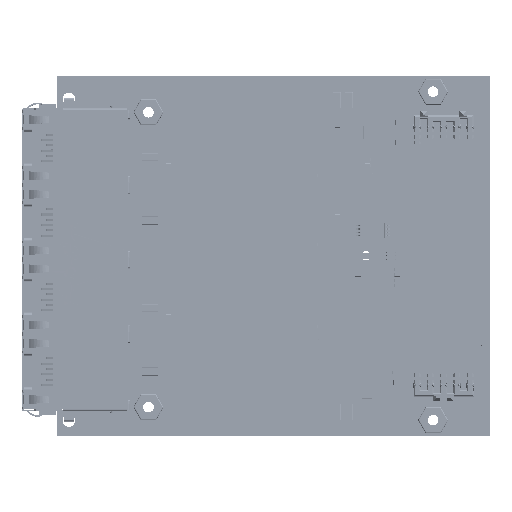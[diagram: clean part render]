
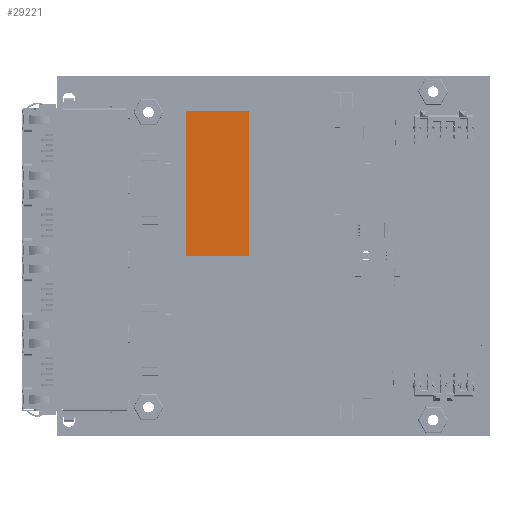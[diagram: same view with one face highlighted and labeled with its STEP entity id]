
A CAD part, top view. The second image highlights one B-rep face of the part: STEP entity #29221.
In plain terms, the highlighted planar face has unit normal (0, 0, 1).
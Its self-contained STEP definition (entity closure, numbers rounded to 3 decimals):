
#29092 = VERTEX_POINT('',#29093);
#29093 = CARTESIAN_POINT('',(6.1,-13.9,7.113));
#29099 = EDGE_CURVE('',#29092,#29100,#29102,.T.);
#29100 = VERTEX_POINT('',#29101);
#29101 = CARTESIAN_POINT('',(6.1,13.9,7.113));
#29102 = LINE('',#29103,#29104);
#29103 = CARTESIAN_POINT('',(6.1,-13.9,7.113));
#29104 = VECTOR('',#29105,1.);
#29105 = DIRECTION('',(0.,1.,0.));
#29130 = EDGE_CURVE('',#29100,#29131,#29133,.T.);
#29131 = VERTEX_POINT('',#29132);
#29132 = CARTESIAN_POINT('',(-6.1,13.9,7.113));
#29133 = LINE('',#29134,#29135);
#29134 = CARTESIAN_POINT('',(6.1,13.9,7.113));
#29135 = VECTOR('',#29136,1.);
#29136 = DIRECTION('',(-1.,0.,0.));
#29161 = EDGE_CURVE('',#29131,#29162,#29164,.T.);
#29162 = VERTEX_POINT('',#29163);
#29163 = CARTESIAN_POINT('',(-6.1,-13.9,7.113));
#29164 = LINE('',#29165,#29166);
#29165 = CARTESIAN_POINT('',(-6.1,13.9,7.113));
#29166 = VECTOR('',#29167,1.);
#29167 = DIRECTION('',(0.,-1.,0.));
#29192 = EDGE_CURVE('',#29162,#29092,#29193,.T.);
#29193 = LINE('',#29194,#29195);
#29194 = CARTESIAN_POINT('',(-6.1,-13.9,7.113));
#29195 = VECTOR('',#29196,1.);
#29196 = DIRECTION('',(1.,0.,0.));
#29221 = ADVANCED_FACE('',(#29222),#29228,.T.);
#29222 = FACE_BOUND('',#29223,.T.);
#29223 = EDGE_LOOP('',(#29224,#29225,#29226,#29227));
#29224 = ORIENTED_EDGE('',*,*,#29099,.T.);
#29225 = ORIENTED_EDGE('',*,*,#29130,.T.);
#29226 = ORIENTED_EDGE('',*,*,#29161,.T.);
#29227 = ORIENTED_EDGE('',*,*,#29192,.T.);
#29228 = PLANE('',#29229);
#29229 = AXIS2_PLACEMENT_3D('',#29230,#29231,#29232);
#29230 = CARTESIAN_POINT('',(0.,0.,
    7.113));
#29231 = DIRECTION('',(0.,0.,1.));
#29232 = DIRECTION('',(1.,0.,-0.));
